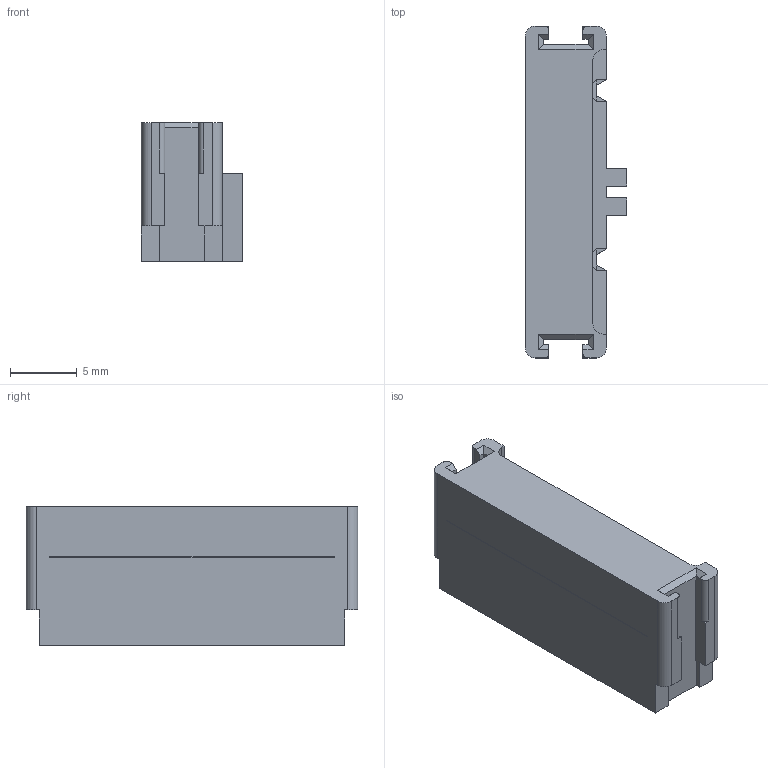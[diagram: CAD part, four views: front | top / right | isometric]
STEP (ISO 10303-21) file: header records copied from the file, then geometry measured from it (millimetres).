
FILE_DESCRIPTION(/* description */ (''),/* implementation_level */ '2;1');
FILE_NAME(/* name */ '3452-7600-01',/* time_stamp */ '2006-10-03T11:52:54-05:00',/* author */ (''),/* organization */ (''),/* preprocessor_version */ 'ST-DEVELOPER v9',/* originating_system */ 'UGS - NX 3.0',/* authorisation */ '');
FILE_SCHEMA (('CONFIG_CONTROL_DESIGN'));
Length unit declared in the file: inch
Products named in the file (1): a0ttFE72kbd6
Bounding box: 7.62 x 24.89 x 10.41 mm (x, y, z)
Volume: 1316.4 mm3; surface area: 1312.8 mm2
Topology: 1 solids, 1 shells, 176 faces, 453 edges, 294 vertices
Faces by surface type: plane 166, cylinder 10
Entity records: 5317 total; most frequent: CARTESIAN_POINT 924, ORIENTED_EDGE 906, DIRECTION 827, EDGE_CURVE 453, LINE 433, VECTOR 433, VERTEX_POINT 294, AXIS2_PLACEMENT_3D 197
